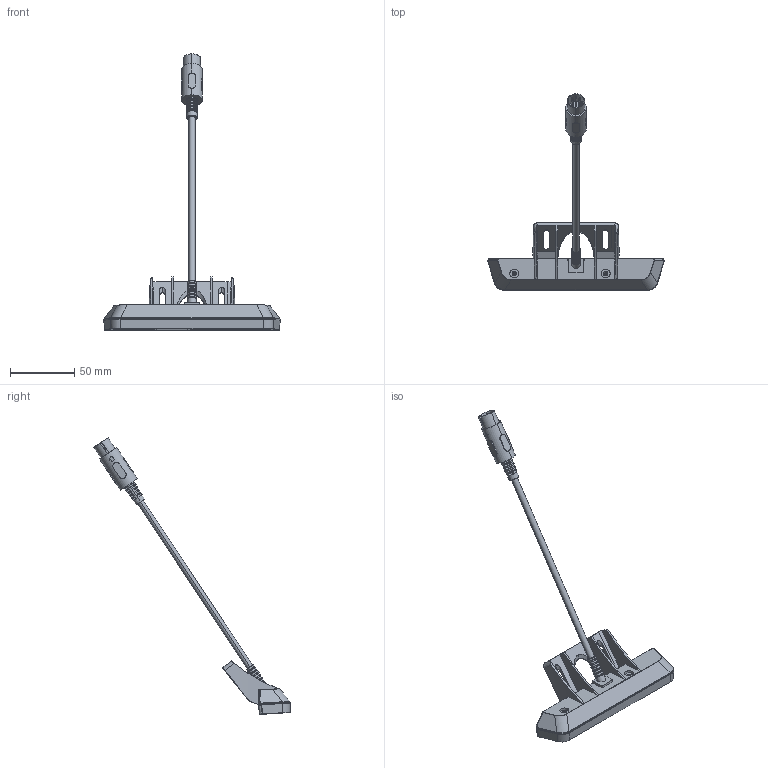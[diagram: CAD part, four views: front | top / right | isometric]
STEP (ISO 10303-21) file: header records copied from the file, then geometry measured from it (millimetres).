
FILE_DESCRIPTION (( 'STEP AP203' ), '1' );
FILE_NAME ('645-03112.STEP', '2022-05-31T18:58:10', ( '' ), ( '' ), 'SwSTEP 2.0', 'SolidWorks 2021', '' );
FILE_SCHEMA (( 'CONFIG_CONTROL_DESIGN' ));
Length unit declared in the file: millimetre
Products named in the file (13): 645-03112; 15721.STEP.STEP; 16820.STEP.STEP; 16819.STEP.STEP; 15720.STEP.STEP; 15716___.STEP.STEP; HSU-C-FL-LD.STEP; 15723.STEP.STEP; HSU-Facelift.STEP.STEP; 15719.STEP.STEP; 16821_mounted.STEP.STEP; 16816_mounted.STEP.STEP; 15718___.STEP.STEP
Assembly tree (14 placements, depth 5):
  645-03112
    HSU-C-FL-LD.STEP
      HSU-Facelift.STEP.STEP
        15723.STEP.STEP
          15719.STEP.STEP
          15720.STEP.STEP
          15721.STEP.STEP  x3
          15718___.STEP.STEP
        16821_mounted.STEP.STEP
          16816_mounted.STEP.STEP
          16819.STEP.STEP
          16820.STEP.STEP
        15716___.STEP.STEP
Bounding box: 137.22 x 152.59 x 214.9 mm (x, y, z)
Volume: 39946.6 mm3; surface area: 48902.2 mm2
Topology: 10 solids, 10 shells, 1824 faces, 4853 edges, 3204 vertices
Faces by surface type: plane 877, bspline 364, cylinder 351, torus 140, cone 77, sphere 15
Entity records: 75125 total; most frequent: CARTESIAN_POINT 31817, ORIENTED_EDGE 9376, DIRECTION 7541, EDGE_CURVE 4688, VERTEX_POINT 3100, LINE 2637, VECTOR 2637, AXIS2_PLACEMENT_3D 2452
